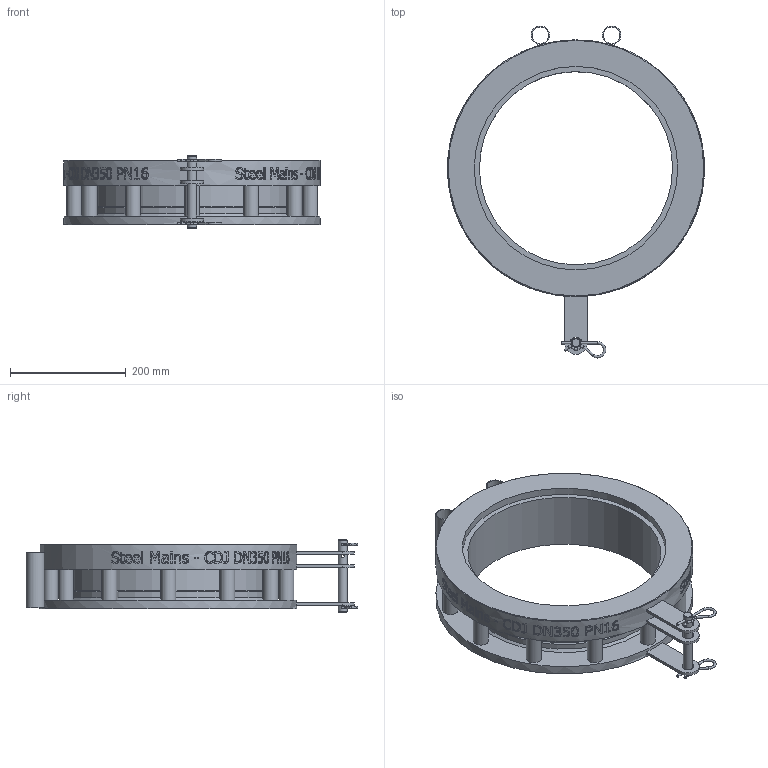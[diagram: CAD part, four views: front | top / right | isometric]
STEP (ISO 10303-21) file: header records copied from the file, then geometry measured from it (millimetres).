
FILE_DESCRIPTION(/* description */ (''),/* implementation_level */ '2;1');
FILE_NAME(/* name */ 'C:\Vault\Designs\Somerton\196\196-11 Models\Marketing Files\CDJ DN350 PN16 - (196-11T rev Bb).stp',/* time_stamp */ '2025-04-30T14:28:56+10:00',/* author */ ('Param.Singh'),/* organization */ (''),/* preprocessor_version */ 'ST-DEVELOPER v18.1',/* originating_system */ 'Autodesk Inventor 2021',/* authorisation */ '');
FILE_SCHEMA (('AUTOMOTIVE_DESIGN { 1 0 10303 214 3 1 1 }'));
Length unit declared in the file: millimetre
Products named in the file (1): SPS_ENG-049144
Bounding box: 444.19 x 573.86 x 125 mm (x, y, z)
Volume: 4695850.6 mm3; surface area: 622279.7 mm2
Topology: 6 solids, 6 shells, 841 faces, 2288 edges, 1526 vertices
Faces by surface type: bspline 404, plane 317, cylinder 107, torus 8, cone 5
Full cylindrical faces by diameter (mm): 4 x10, 5 x3, 16 x1, 20 x3, 26 x12, 28.8 x2, 32 x2, 334 x1, 346 x1, 350 x1, 352 x1, 444 x1
Entity records: 37170 total; most frequent: CARTESIAN_POINT 18016, ORIENTED_EDGE 4582, DIRECTION 2742, EDGE_CURVE 2291, VERTEX_POINT 1529, LINE 1064, VECTOR 1064, EDGE_LOOP 950
